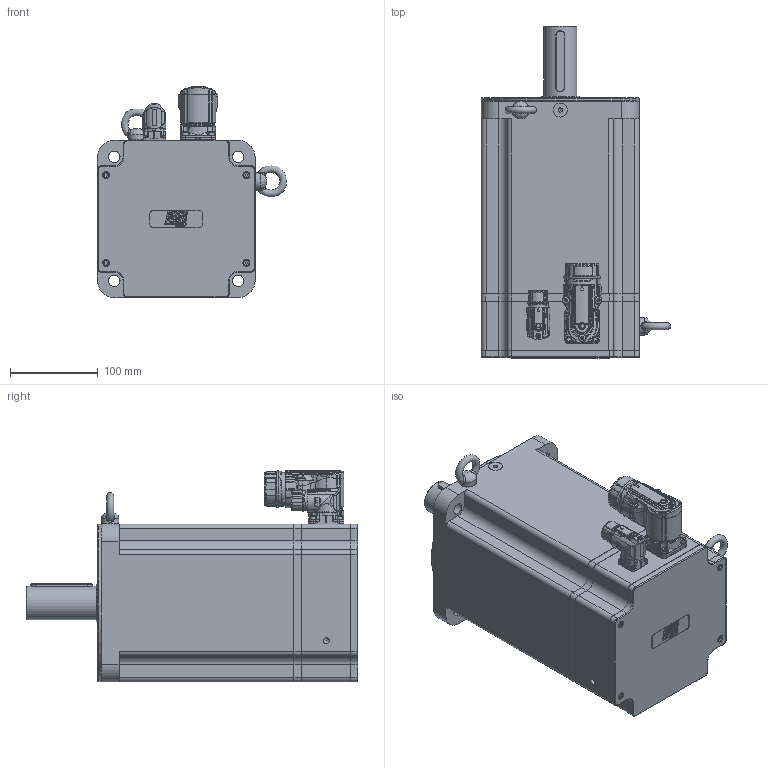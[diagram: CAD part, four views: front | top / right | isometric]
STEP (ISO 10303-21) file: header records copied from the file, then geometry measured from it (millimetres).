
FILE_DESCRIPTION(/* description */ ('Unknown'),/* implementation_level */ '2;1');
FILE_NAME(/* name */ 'TC4-180.7E.X X.X.3.XX.0.X.G3.00.00 Q0B809',/* time_stamp */ '2026-03-10T15:05:24+01:00',/* author */ ('Unknown'),/* organization */ ('Unknown'),/* preprocessor_version */ 'ST-DEVELOPER v19.4',/* originating_system */ 'Solid Edge',/* authorisation */ 'Unknown');
FILE_SCHEMA (('AUTOMOTIVE_DESIGN {1 0 10303 214 3 1 1}'));
Products named in the file (16): Q0B809 7E VUOTO; Calotta TC4-180 V8; 003251040631; 005911000479; 005911000205; 003155002231; 005113001040; 005119001064; 005911000185; Coperchio campana TC4-180; 005911000180; 005321000010; 007117000452; 007117000454; Corpo TC4-180 7E; 003003199967
Assembly tree (32 placements, depth 2):
  Q0B809 7E VUOTO
    Calotta TC4-180 V8
    003251040631
    005911000479  x8
    005911000205  x4
    003155002231
    005113001040
    005119001064
    005911000185  x4
    Coperchio campana TC4-180
    005911000180  x4
    005321000010  x2
    007117000452
    007117000454
    Corpo TC4-180 7E
    003003199967
Bounding box: 215.95 x 378.5 x 241.45 mm (x, y, z)
Volume: 3797545.5 mm3; surface area: 770991.2 mm2
Topology: 34 solids, 35 shells, 3276 faces, 8121 edges, 5036 vertices
Faces by surface type: plane 1167, cylinder 700, bspline 616, cone 346, torus 313, sphere 134
Full cylindrical faces by diameter (mm): 0.5 x1, 1 x17, 1.2 x17, 2 x4, 2.013 x8, 2.5 x4, 3 x5, 3.242 x12, 3.6 x5, 4 x12, 4.134 x24, 4.2 x8, 4.5 x9, 4.7 x4, 4.917 x2, 5 x8, 5.4 x1, 5.5 x9, 5.9 x1, 6.647 x14, 7 x10, 8 x9, 9 x4, 10 x3, 10.106 x2, 15.2 x1, 16 x1, 17.4 x2, 18 x1, 20 x3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
Entity records: 144767 total; most frequent: CARTESIAN_POINT 59766, ORIENTED_EDGE 13718, DIRECTION 11865, EDGE_CURVE 6859, AXIS2_PLACEMENT_3D 4673, VERTEX_POINT 4535, FACE_BOUND 3796, EDGE_LOOP 3769
